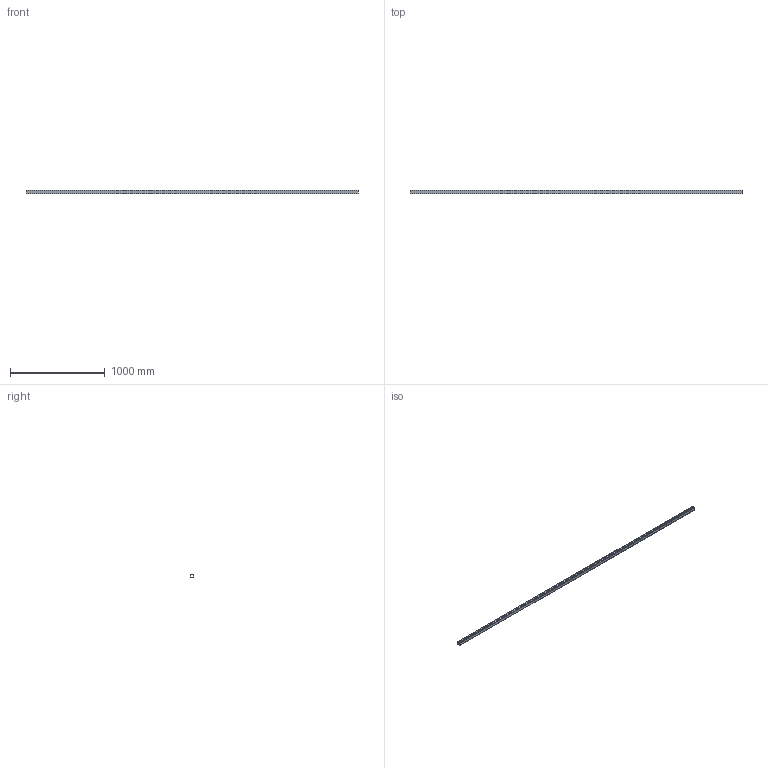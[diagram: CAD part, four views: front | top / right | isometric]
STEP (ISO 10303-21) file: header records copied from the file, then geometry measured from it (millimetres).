
FILE_DESCRIPTION(('STEP AP242'),'1');
FILE_NAME('OPO_65.081.13.stp','2026-01-30T20:49:08',(' '),(' '),'Spatial InterOp 3D',' ',' ');
FILE_SCHEMA(('AP242_MANAGED_MODEL_BASED_3D_ENGINEERING_MIM_LF {1 0 10303 442 1 1 4}'));
Length unit declared in the file: millimetre
Products named in the file (1): 1
Bounding box: 3500 x 34 x 33 mm (x, y, z)
Volume: 959656.2 mm3; surface area: 862986 mm2
Topology: 1 solids, 1 shells, 92 faces, 256 edges, 170 vertices
Faces by surface type: plane 72, cylinder 20
Entity records: 3676 total; most frequent: CARTESIAN_POINT 519, ORIENTED_EDGE 512, DIRECTION 482, EDGE_CURVE 256, LINE 216, VECTOR 216, VERTEX_POINT 170, AXIS2_PLACEMENT_3D 133
